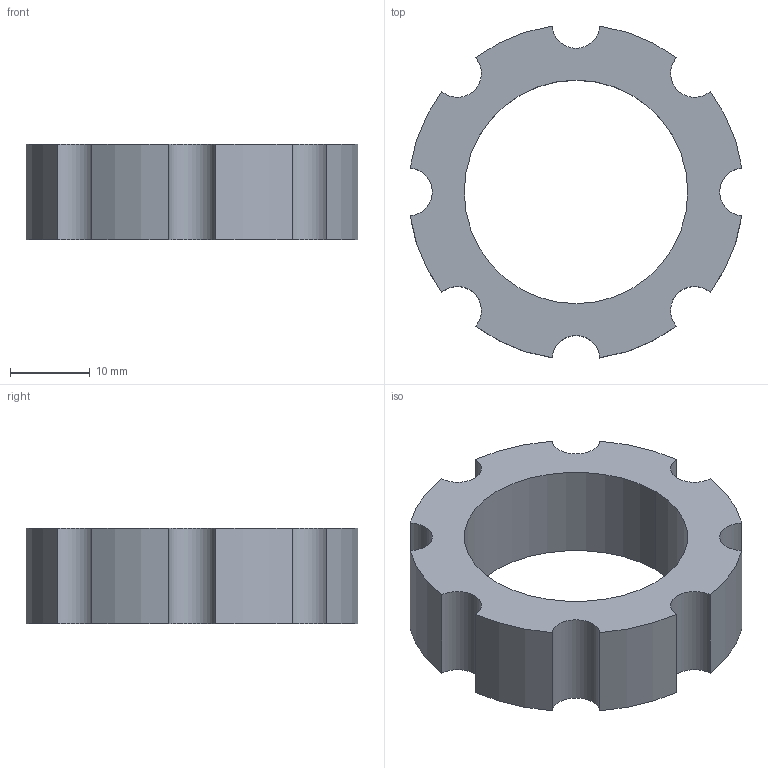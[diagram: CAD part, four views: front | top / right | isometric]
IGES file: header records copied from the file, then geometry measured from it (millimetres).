
Start section: START RECORD GO HERE.
Global section: file name: R8_AC_Nut_M32x1p5.igs; native system: IBM CATIA IGES - CATIA Version 5 Release 18 ; preprocessor: CATIA Version 5 Release 18 ; author: Barry; organization: win764bit; date: 20170723.073304; units: millimetre
Bounding box: 41.57 x 41.57 x 12 mm (x, y, z)
Surface area: 4246.1 mm2 (no closed solid volume)
Topology: 0 solids, 0 shells, 21 faces, 142 edges, 142 vertices
Faces by surface type: revolution 19, plane 2
